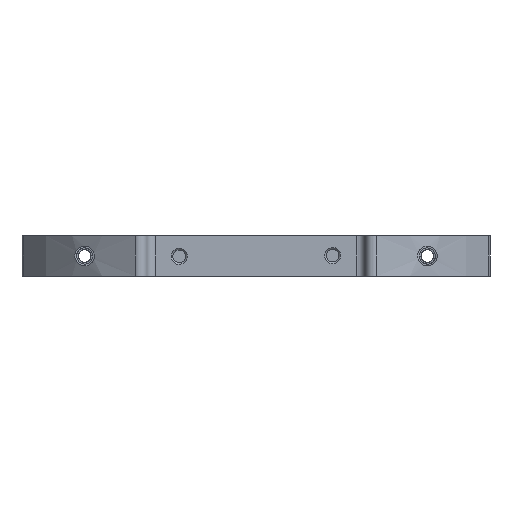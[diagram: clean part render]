
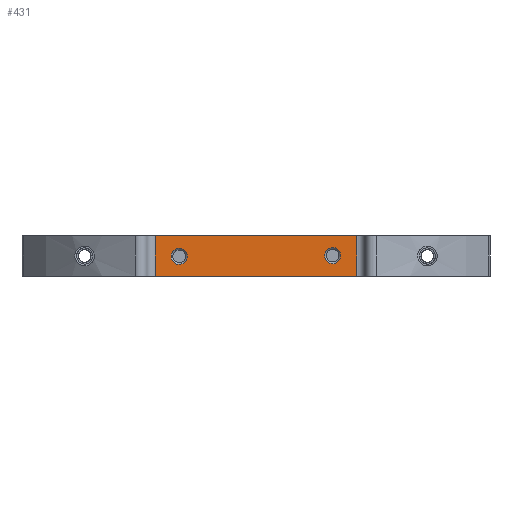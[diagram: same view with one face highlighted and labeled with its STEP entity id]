
A CAD part, left-side view. The second image highlights one B-rep face of the part: STEP entity #431.
In plain terms, the highlighted planar face has unit normal (-1, 0, 0).
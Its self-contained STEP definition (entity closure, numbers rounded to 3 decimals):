
#431=ADVANCED_FACE('',(#870,#871,#650),#2338,.T.);
#650=FACE_OUTER_BOUND('',#930,.F.);
#870=FACE_BOUND('',#928,.F.);
#871=FACE_BOUND('',#929,.F.);
#928=EDGE_LOOP('',(#1209,#1210));
#929=EDGE_LOOP('',(#1211,#1212));
#930=EDGE_LOOP('',(#1213,#1214,#1215,#1216));
#1209=ORIENTED_EDGE('',*,*,#4415,.T.);
#1210=ORIENTED_EDGE('',*,*,#4416,.T.);
#1211=ORIENTED_EDGE('',*,*,#4422,.T.);
#1212=ORIENTED_EDGE('',*,*,#4421,.T.);
#1213=ORIENTED_EDGE('',*,*,#4417,.F.);
#1214=ORIENTED_EDGE('',*,*,#4420,.F.);
#1215=ORIENTED_EDGE('',*,*,#4418,.T.);
#1216=ORIENTED_EDGE('',*,*,#4419,.T.);
#2338=PLANE('',#5774);
#3827=LINE('',#7590,#4119);
#3828=LINE('',#7591,#4120);
#3829=LINE('',#7592,#4121);
#3830=LINE('',#7593,#4122);
#4119=VECTOR('',#6067,25.);
#4120=VECTOR('',#6068,25.);
#4121=VECTOR('',#6069,5.);
#4122=VECTOR('',#6070,5.);
#4415=EDGE_CURVE('',#5510,#5509,#4979,.T.);
#4416=EDGE_CURVE('',#5509,#5510,#4980,.T.);
#4417=EDGE_CURVE('',#5508,#5507,#3827,.T.);
#4418=EDGE_CURVE('',#5506,#5505,#3828,.T.);
#4419=EDGE_CURVE('',#5505,#5507,#3829,.T.);
#4420=EDGE_CURVE('',#5506,#5508,#3830,.T.);
#4421=EDGE_CURVE('',#5504,#5503,#4981,.T.);
#4422=EDGE_CURVE('',#5503,#5504,#4982,.T.);
#4979=CIRCLE('',#5589,1.);
#4980=CIRCLE('',#5590,1.);
#4981=CIRCLE('',#5591,1.);
#4982=CIRCLE('',#5592,1.);
#5503=VERTEX_POINT('',#7564);
#5504=VERTEX_POINT('',#7565);
#5505=VERTEX_POINT('',#7566);
#5506=VERTEX_POINT('',#7567);
#5507=VERTEX_POINT('',#7568);
#5508=VERTEX_POINT('',#7569);
#5509=VERTEX_POINT('',#7570);
#5510=VERTEX_POINT('',#7571);
#5589=AXIS2_PLACEMENT_3D('',#7588,#6063,#6064);
#5590=AXIS2_PLACEMENT_3D('',#7589,#6065,#6066);
#5591=AXIS2_PLACEMENT_3D('',#7594,#6071,#6072);
#5592=AXIS2_PLACEMENT_3D('',#7595,#6073,#6074);
#5774=AXIS2_PLACEMENT_3D('',#8405,#6681,#6682);
#6063=DIRECTION('',(-1.,0.,0.));
#6064=DIRECTION('',(0.,-1.,0.005));
#6065=DIRECTION('',(-1.,0.,0.));
#6066=DIRECTION('',(0.,1.,-0.005));
#6067=DIRECTION('',(0.,1.,0.));
#6068=DIRECTION('',(0.,1.,0.));
#6069=DIRECTION('',(0.,0.,1.));
#6070=DIRECTION('',(0.,0.,1.));
#6071=DIRECTION('',(-1.,0.,0.));
#6072=DIRECTION('',(0.,1.,-0.005));
#6073=DIRECTION('',(-1.,0.,0.));
#6074=DIRECTION('',(0.,-1.,0.005));
#6681=DIRECTION('',(-1.,0.,0.));
#6682=DIRECTION('',(0.,1.,0.));
#7564=CARTESIAN_POINT('',(259.708,427.72,246.306));
#7565=CARTESIAN_POINT('',(259.708,429.72,246.296));
#7566=CARTESIAN_POINT('',(259.708,431.707,243.851));
#7567=CARTESIAN_POINT('',(259.708,406.707,243.851));
#7568=CARTESIAN_POINT('',(259.708,431.707,248.851));
#7569=CARTESIAN_POINT('',(259.708,406.707,248.851));
#7570=CARTESIAN_POINT('',(259.708,410.72,246.395));
#7571=CARTESIAN_POINT('',(259.708,408.72,246.406));
#7588=CARTESIAN_POINT('',(259.708,409.72,246.401));
#7589=CARTESIAN_POINT('',(259.708,409.72,246.401));
#7590=CARTESIAN_POINT('',(259.708,406.707,248.851));
#7591=CARTESIAN_POINT('',(259.708,406.707,243.851));
#7592=CARTESIAN_POINT('',(259.708,431.707,243.851));
#7593=CARTESIAN_POINT('',(259.708,406.707,243.851));
#7594=CARTESIAN_POINT('',(259.708,428.72,246.301));
#7595=CARTESIAN_POINT('',(259.708,428.72,246.301));
#8405=CARTESIAN_POINT('',(259.708,406.457,249.101));
